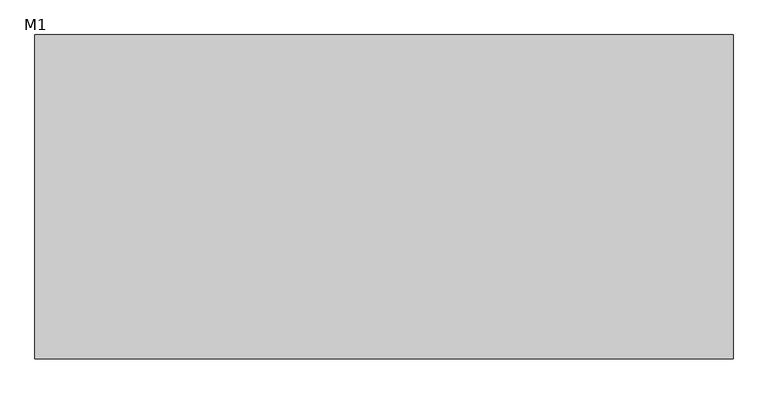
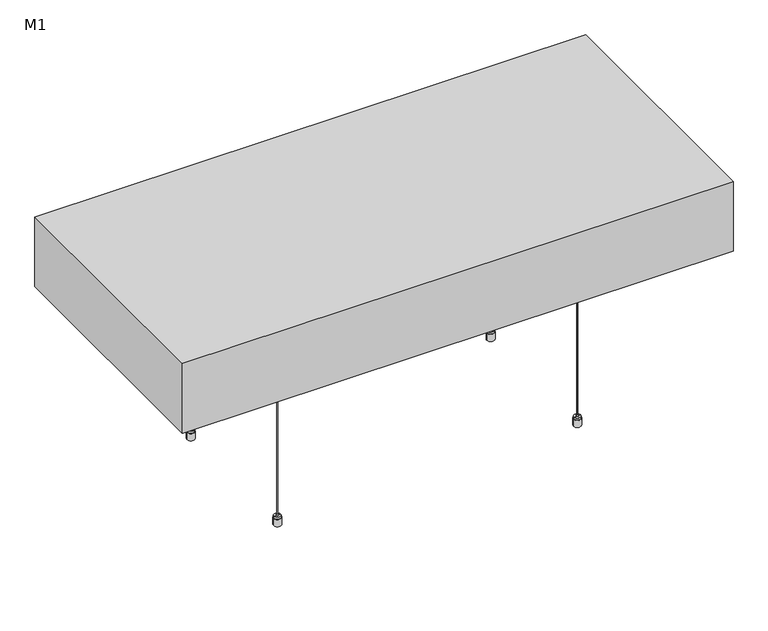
"""IFC4 building model written with IfcOpenShell, lengths in millimetres: proxy geometry, OWA Corpus : M1."""

from ifc_helpers import new_model, si_unit, point, frame, frame_2d, origin, place, context, project, spatial, polyline, circle_curve, trimmed, segment, composite_curve, outline, extrude, faceted_brep, source, transform, mapped, element, save
from ifc_brep_helpers import plane_surface, cylinder_surface, revolved_surface, advanced_brep


def m1_293964e8(model_context):
    return source(origin(), model_context, "Body", "SolidModel", [
        advanced_brep(
        [(-128.5, -152.5, 0.0), (-120.7593825, -152.5, 0.0), (-136.2406175, -152.5, 0.0), (-120.7593825, -152.5, 15.0), (-136.2406175, -152.5, 15.0), (-121.6843825, -152.5, 15.0), (-135.3156175, -152.5, 15.0), (-121.6843825, -152.5, 19.0), (-135.3156175, -152.5, 19.0), (-126.4343825, -152.5, 19.0), (-130.5656175, -152.5, 19.0), (-126.4343825, -152.5, 22.546183), (-130.5656175, -152.5, 22.546183), (-128.5, -152.5, 22.546183)],
        [
            (0, 1),
            (1, 2, circle_curve(frame((-128.5, -152.5, 0.0), z_axis=(0.0, 0.0, -1.0), x_axis=(-1.0, 0.0, 0.0)), 7.7406175)),
            (2, 0),
            (2, 1, circle_curve(frame((-128.5, -152.5, 0.0), z_axis=(0.0, 0.0, -1.0), x_axis=(-1.0, 0.0, 0.0)), 7.7406175)),
            (1, 3),
            (3, 4, circle_curve(frame((-128.5, -152.5, 15.0), z_axis=(0.0, 0.0, -1.0), x_axis=(-1.0, 0.0, 0.0)), 7.7406175)),
            (4, 2),
            (4, 3, circle_curve(frame((-128.5, -152.5, 15.0), z_axis=(0.0, 0.0, -1.0), x_axis=(-1.0, 0.0, 0.0)), 7.7406175)),
            (3, 5),
            (5, 6, circle_curve(frame((-128.5, -152.5, 15.0), z_axis=(0.0, 0.0, -1.0), x_axis=(-1.0, 0.0, 0.0)), 6.8156175)),
            (6, 4),
            (6, 5, circle_curve(frame((-128.5, -152.5, 15.0), z_axis=(0.0, 0.0, -1.0), x_axis=(-1.0, 0.0, 0.0)), 6.8156175)),
            (5, 7),
            (7, 8, circle_curve(frame((-128.5, -152.5, 19.0), z_axis=(0.0, 0.0, -1.0), x_axis=(-1.0, 0.0, 0.0)), 6.8156175)),
            (8, 6),
            (8, 7, circle_curve(frame((-128.5, -152.5, 19.0), z_axis=(0.0, 0.0, -1.0), x_axis=(-1.0, 0.0, 0.0)), 6.8156175)),
            (7, 9),
            (9, 10, circle_curve(frame((-128.5, -152.5, 19.0), z_axis=(0.0, 0.0, -1.0), x_axis=(-1.0, 0.0, 0.0)), 2.0656175)),
            (10, 8),
            (10, 9, circle_curve(frame((-128.5, -152.5, 19.0), z_axis=(0.0, 0.0, -1.0), x_axis=(-1.0, 0.0, 0.0)), 2.0656175)),
            (9, 11),
            (11, 12, circle_curve(frame((-128.5, -152.5, 22.546183), z_axis=(0.0, 0.0, -1.0), x_axis=(-1.0, 0.0, 0.0)), 2.0656175)),
            (12, 10),
            (12, 11, circle_curve(frame((-128.5, -152.5, 22.546183), z_axis=(0.0, 0.0, -1.0), x_axis=(-1.0, 0.0, 0.0)), 2.0656175)),
            (11, 13),
            (13, 12),
        ],
        [
            plane_surface(frame((-128.5, -152.5, 0.0), z_axis=(0.0, 0.0, -1.0), x_axis=(-1.0, 0.0, 0.0))),
            cylinder_surface(frame((-128.5, -152.5, -10.0), z_axis=(0.0, 0.0, -1.0), x_axis=(-1.0, 0.0, 0.0)), 7.7406175),
            plane_surface(frame((-128.5, -152.5, 15.0), z_axis=(0.0, 0.0, 1.0), x_axis=(-1.0, 0.0, 0.0))),
            cylinder_surface(frame((-128.5, -152.5, -10.0), z_axis=(0.0, 0.0, -1.0), x_axis=(-1.0, 0.0, 0.0)), 6.8156175),
            plane_surface(frame((-128.5, -152.5, 19.0), z_axis=(0.0, 0.0, 1.0), x_axis=(-1.0, 0.0, 0.0))),
            cylinder_surface(frame((-128.5, -152.5, -10.0), z_axis=(0.0, 0.0, -1.0), x_axis=(-1.0, 0.0, 0.0)), 2.0656175),
            plane_surface(frame((-128.5, -152.5, 22.546183), z_axis=(0.0, 0.0, 1.0), x_axis=(-1.0, 0.0, 0.0))),
        ],
        [
            (0, [[1, 2, 3]]),
            (0, [[-3, 4, -1]]),
            (1, [[5, 6, 7, -2]]),
            (1, [[-7, 8, -5, -4]]),
            (2, [[9, 10, 11, -6]]),
            (2, [[-11, 12, -9, -8]]),
            (3, [[13, 14, 15, -10]]),
            (3, [[-15, 16, -13, -12]]),
            (4, [[17, 18, 19, -14]]),
            (4, [[-19, 20, -17, -16]]),
            (5, [[21, 22, 23, -18]]),
            (5, [[-23, 24, -21, -20]]),
            (6, [[25, 26, -22]]),
            (6, [[-26, -25, -24]]),
        ],
    ),
        advanced_brep(
        [(-126.2615389, -152.5, 428.8211737), (-126.1339453, -152.5, 432.8711737), (-130.8660547, -152.5, 432.8711737), (-130.7384611, -152.5, 428.8211737), (-123.6339453, -152.5, 432.8711737), (-133.3660547, -152.5, 432.8711737), (-123.6339453, -152.5, 458.1211737), (-133.3660547, -152.5, 458.1211737), (-112.6339453, -152.5, 458.1211737), (-144.3660547, -152.5, 458.1211737), (-112.6339453, -152.5, 460.0), (-144.3660547, -152.5, 460.0), (-128.5, -152.5, 460.0), (-128.5, -152.5, 428.8211737)],
        [
            (0, 1),
            (1, 2, circle_curve(frame((-128.5, -152.5, 432.8711737), z_axis=(0.0, 0.0, -1.0), x_axis=(-1.0, 0.0, 0.0)), 2.3660547)),
            (2, 3),
            (3, 0, circle_curve(frame((-128.5, -152.5, 428.8211737), z_axis=(0.0, 0.0, 1.0), x_axis=(-1.0, 0.0, 0.0)), 2.2384611)),
            (2, 1, circle_curve(frame((-128.5, -152.5, 432.8711737), z_axis=(0.0, 0.0, -1.0), x_axis=(-1.0, 0.0, 0.0)), 2.3660547)),
            (0, 3, circle_curve(frame((-128.5, -152.5, 428.8211737), z_axis=(0.0, 0.0, 1.0), x_axis=(-1.0, 0.0, 0.0)), 2.2384611)),
            (1, 4),
            (4, 5, circle_curve(frame((-128.5, -152.5, 432.8711737), z_axis=(0.0, 0.0, -1.0), x_axis=(-1.0, 0.0, 0.0)), 4.8660547)),
            (5, 2),
            (5, 4, circle_curve(frame((-128.5, -152.5, 432.8711737), z_axis=(0.0, 0.0, -1.0), x_axis=(-1.0, 0.0, 0.0)), 4.8660547)),
            (4, 6),
            (6, 7, circle_curve(frame((-128.5, -152.5, 458.1211737), z_axis=(0.0, 0.0, -1.0), x_axis=(-1.0, 0.0, 0.0)), 4.8660547)),
            (7, 5),
            (7, 6, circle_curve(frame((-128.5, -152.5, 458.1211737), z_axis=(0.0, 0.0, -1.0), x_axis=(-1.0, 0.0, 0.0)), 4.8660547)),
            (6, 8),
            (8, 9, circle_curve(frame((-128.5, -152.5, 458.1211737), z_axis=(0.0, 0.0, -1.0), x_axis=(-1.0, 0.0, 0.0)), 15.8660547)),
            (9, 7),
            (9, 8, circle_curve(frame((-128.5, -152.5, 458.1211737), z_axis=(0.0, 0.0, -1.0), x_axis=(-1.0, 0.0, 0.0)), 15.8660547)),
            (8, 10),
            (10, 11, circle_curve(frame((-128.5, -152.5, 460.0), z_axis=(0.0, 0.0, -1.0), x_axis=(-1.0, 0.0, 0.0)), 15.8660547)),
            (11, 9),
            (11, 10, circle_curve(frame((-128.5, -152.5, 460.0), z_axis=(0.0, 0.0, -1.0), x_axis=(-1.0, 0.0, 0.0)), 15.8660547)),
            (10, 12),
            (12, 11),
            (13, 0),
            (3, 13),
        ],
        [
            revolved_surface(polyline([(-130.8660547, -152.5, 432.8711737), (-130.7384611, -152.5, 428.8211737)]), (-128.5, -152.5, 461.8401096), (0.0, 0.0, -1.0)),
            plane_surface(frame((-128.5, -152.5, 432.8711737), z_axis=(0.0, 0.0, -1.0), x_axis=(-1.0, 0.0, 0.0))),
            cylinder_surface(frame((-128.5, -152.5, 461.8401096), z_axis=(0.0, 0.0, -1.0), x_axis=(-1.0, 0.0, 0.0)), 4.8660547),
            plane_surface(frame((-128.5, -152.5, 458.1211737), z_axis=(0.0, 0.0, -1.0), x_axis=(-1.0, 0.0, 0.0))),
            cylinder_surface(frame((-128.5, -152.5, 461.8401096), z_axis=(0.0, 0.0, -1.0), x_axis=(-1.0, 0.0, 0.0)), 15.8660547),
            plane_surface(frame((-128.5, -152.5, 460.0), z_axis=(0.0, 0.0, 1.0), x_axis=(-1.0, 0.0, 0.0))),
            plane_surface(frame((-128.5, -152.5, 428.8211737), z_axis=(0.0, 0.0, -1.0), x_axis=(-1.0, 0.0, 0.0))),
        ],
        [
            (0, [[1, 2, 3, 4]]),
            (0, [[-3, 5, -1, 6]]),
            (1, [[7, 8, 9, -2]]),
            (1, [[-9, 10, -7, -5]]),
            (2, [[11, 12, 13, -8]]),
            (2, [[-13, 14, -11, -10]]),
            (3, [[15, 16, 17, -12]]),
            (3, [[-17, 18, -15, -14]]),
            (4, [[19, 20, 21, -16]]),
            (4, [[-21, 22, -19, -18]]),
            (5, [[23, 24, -20]]),
            (5, [[-24, -23, -22]]),
            (6, [[25, -4, 26]]),
            (6, [[-26, -6, -25]]),
        ],
    ),
        extrude(outline(composite_curve([segment(trimmed(circle_curve(frame_2d((-128.5, -152.5)), 1.0), [point((-129.5, -152.5))], [point((-127.5, -152.5))], False, "CARTESIAN"), True, "CONTINUOUS"), segment(trimmed(circle_curve(frame_2d((-128.5, -152.5)), 1.0), [point((-127.5, -152.5))], [point((-129.5, -152.5))], False, "CARTESIAN"), True, "CONTINUOUS")], self_intersect=False)), frame((0.0, 0.0, 22.546183), z_axis=(0.0, 0.0, 1.0), x_axis=(1.0, 0.0, 0.0)), (0.0, 0.0, 1.0), 406.2749908),
        advanced_brep(
        [(-128.5, 152.5, 0.0), (-136.2406175, 152.5, 0.0), (-120.7593825, 152.5, 0.0), (-136.2406175, 152.5, 15.0), (-120.7593825, 152.5, 15.0), (-135.3156175, 152.5, 15.0), (-121.6843825, 152.5, 15.0), (-135.3156175, 152.5, 19.0), (-121.6843825, 152.5, 19.0), (-130.5656175, 152.5, 19.0), (-126.4343825, 152.5, 19.0), (-130.5656175, 152.5, 22.546183), (-126.4343825, 152.5, 22.546183), (-128.5, 152.5, 22.546183)],
        [
            (0, 1),
            (1, 2, circle_curve(frame((-128.5, 152.5, 0.0), z_axis=(0.0, 0.0, -1.0), x_axis=(-1.0, 0.0, 0.0)), 7.7406175)),
            (2, 0),
            (2, 1, circle_curve(frame((-128.5, 152.5, 0.0), z_axis=(0.0, 0.0, -1.0), x_axis=(-1.0, 0.0, 0.0)), 7.7406175)),
            (1, 3),
            (3, 4, circle_curve(frame((-128.5, 152.5, 15.0), z_axis=(0.0, 0.0, -1.0), x_axis=(-1.0, 0.0, 0.0)), 7.7406175)),
            (4, 2),
            (4, 3, circle_curve(frame((-128.5, 152.5, 15.0), z_axis=(0.0, 0.0, -1.0), x_axis=(-1.0, 0.0, 0.0)), 7.7406175)),
            (3, 5),
            (5, 6, circle_curve(frame((-128.5, 152.5, 15.0), z_axis=(0.0, 0.0, -1.0), x_axis=(-1.0, 0.0, 0.0)), 6.8156175)),
            (6, 4),
            (6, 5, circle_curve(frame((-128.5, 152.5, 15.0), z_axis=(0.0, 0.0, -1.0), x_axis=(-1.0, 0.0, 0.0)), 6.8156175)),
            (5, 7),
            (7, 8, circle_curve(frame((-128.5, 152.5, 19.0), z_axis=(0.0, 0.0, -1.0), x_axis=(-1.0, 0.0, 0.0)), 6.8156175)),
            (8, 6),
            (8, 7, circle_curve(frame((-128.5, 152.5, 19.0), z_axis=(0.0, 0.0, -1.0), x_axis=(-1.0, 0.0, 0.0)), 6.8156175)),
            (7, 9),
            (9, 10, circle_curve(frame((-128.5, 152.5, 19.0), z_axis=(0.0, 0.0, -1.0), x_axis=(-1.0, 0.0, 0.0)), 2.0656175)),
            (10, 8),
            (10, 9, circle_curve(frame((-128.5, 152.5, 19.0), z_axis=(0.0, 0.0, -1.0), x_axis=(-1.0, 0.0, 0.0)), 2.0656175)),
            (9, 11),
            (11, 12, circle_curve(frame((-128.5, 152.5, 22.546183), z_axis=(0.0, 0.0, -1.0), x_axis=(-1.0, 0.0, 0.0)), 2.0656175)),
            (12, 10),
            (12, 11, circle_curve(frame((-128.5, 152.5, 22.546183), z_axis=(0.0, 0.0, -1.0), x_axis=(-1.0, 0.0, 0.0)), 2.0656175)),
            (11, 13),
            (13, 12),
        ],
        [
            plane_surface(frame((-128.5, 152.5, 0.0), z_axis=(0.0, 0.0, -1.0), x_axis=(-1.0, 0.0, 0.0))),
            cylinder_surface(frame((-128.5, 152.5, -10.0), z_axis=(0.0, 0.0, -1.0), x_axis=(-1.0, 0.0, 0.0)), 7.7406175),
            plane_surface(frame((-128.5, 152.5, 15.0), z_axis=(0.0, 0.0, 1.0), x_axis=(-1.0, 0.0, 0.0))),
            cylinder_surface(frame((-128.5, 152.5, -10.0), z_axis=(0.0, 0.0, -1.0), x_axis=(-1.0, 0.0, 0.0)), 6.8156175),
            plane_surface(frame((-128.5, 152.5, 19.0), z_axis=(0.0, 0.0, 1.0), x_axis=(-1.0, 0.0, 0.0))),
            cylinder_surface(frame((-128.5, 152.5, -10.0), z_axis=(0.0, 0.0, -1.0), x_axis=(-1.0, 0.0, 0.0)), 2.0656175),
            plane_surface(frame((-128.5, 152.5, 22.546183), z_axis=(0.0, 0.0, 1.0), x_axis=(-1.0, 0.0, 0.0))),
        ],
        [
            (0, [[1, 2, 3]]),
            (0, [[-3, 4, -1]]),
            (1, [[-2, 5, 6, 7]]),
            (1, [[-4, -7, 8, -5]]),
            (2, [[-6, 9, 10, 11]]),
            (2, [[-8, -11, 12, -9]]),
            (3, [[-10, 13, 14, 15]]),
            (3, [[-12, -15, 16, -13]]),
            (4, [[-14, 17, 18, 19]]),
            (4, [[-16, -19, 20, -17]]),
            (5, [[-18, 21, 22, 23]]),
            (5, [[-20, -23, 24, -21]]),
            (6, [[-22, 25, 26]]),
            (6, [[-24, -26, -25]]),
        ],
    ),
        advanced_brep(
        [(-126.2615389, 152.5, 428.8211737), (-130.7384611, 152.5, 428.8211737), (-130.8660547, 152.5, 432.8711737), (-126.1339453, 152.5, 432.8711737), (-133.3660547, 152.5, 432.8711737), (-123.6339453, 152.5, 432.8711737), (-133.3660547, 152.5, 458.1211737), (-123.6339453, 152.5, 458.1211737), (-144.3660547, 152.5, 458.1211737), (-112.6339453, 152.5, 458.1211737), (-144.3660547, 152.5, 460.0), (-112.6339453, 152.5, 460.0), (-128.5, 152.5, 460.0), (-128.5, 152.5, 428.8211737)],
        [
            (0, 1, circle_curve(frame((-128.5, 152.5, 428.8211737), z_axis=(0.0, 0.0, 1.0), x_axis=(-1.0, 0.0, 0.0)), 2.2384611)),
            (1, 2),
            (2, 3, circle_curve(frame((-128.5, 152.5, 432.8711737), z_axis=(0.0, 0.0, -1.0), x_axis=(-1.0, 0.0, 0.0)), 2.3660547)),
            (3, 0),
            (1, 0, circle_curve(frame((-128.5, 152.5, 428.8211737), z_axis=(0.0, 0.0, 1.0), x_axis=(-1.0, 0.0, 0.0)), 2.2384611)),
            (3, 2, circle_curve(frame((-128.5, 152.5, 432.8711737), z_axis=(0.0, 0.0, -1.0), x_axis=(-1.0, 0.0, 0.0)), 2.3660547)),
            (2, 4),
            (4, 5, circle_curve(frame((-128.5, 152.5, 432.8711737), z_axis=(0.0, 0.0, -1.0), x_axis=(-1.0, 0.0, 0.0)), 4.8660547)),
            (5, 3),
            (5, 4, circle_curve(frame((-128.5, 152.5, 432.8711737), z_axis=(0.0, 0.0, -1.0), x_axis=(-1.0, 0.0, 0.0)), 4.8660547)),
            (4, 6),
            (6, 7, circle_curve(frame((-128.5, 152.5, 458.1211737), z_axis=(0.0, 0.0, -1.0), x_axis=(-1.0, 0.0, 0.0)), 4.8660547)),
            (7, 5),
            (7, 6, circle_curve(frame((-128.5, 152.5, 458.1211737), z_axis=(0.0, 0.0, -1.0), x_axis=(-1.0, 0.0, 0.0)), 4.8660547)),
            (6, 8),
            (8, 9, circle_curve(frame((-128.5, 152.5, 458.1211737), z_axis=(0.0, 0.0, -1.0), x_axis=(-1.0, 0.0, 0.0)), 15.8660547)),
            (9, 7),
            (9, 8, circle_curve(frame((-128.5, 152.5, 458.1211737), z_axis=(0.0, 0.0, -1.0), x_axis=(-1.0, 0.0, 0.0)), 15.8660547)),
            (8, 10),
            (10, 11, circle_curve(frame((-128.5, 152.5, 460.0), z_axis=(0.0, 0.0, -1.0), x_axis=(-1.0, 0.0, 0.0)), 15.8660547)),
            (11, 9),
            (11, 10, circle_curve(frame((-128.5, 152.5, 460.0), z_axis=(0.0, 0.0, -1.0), x_axis=(-1.0, 0.0, 0.0)), 15.8660547)),
            (10, 12),
            (12, 11),
            (13, 1),
            (0, 13),
        ],
        [
            revolved_surface(polyline([(-130.8660547, 152.5, 432.8711737), (-130.7384611, 152.5, 428.8211737)]), (-128.5, 152.5, 461.8401096), (0.0, 0.0, -1.0)),
            plane_surface(frame((-128.5, 152.5, 432.8711737), z_axis=(0.0, 0.0, -1.0), x_axis=(-1.0, 0.0, 0.0))),
            cylinder_surface(frame((-128.5, 152.5, 461.8401096), z_axis=(0.0, 0.0, -1.0), x_axis=(-1.0, 0.0, 0.0)), 4.8660547),
            plane_surface(frame((-128.5, 152.5, 458.1211737), z_axis=(0.0, 0.0, -1.0), x_axis=(-1.0, 0.0, 0.0))),
            cylinder_surface(frame((-128.5, 152.5, 461.8401096), z_axis=(0.0, 0.0, -1.0), x_axis=(-1.0, 0.0, 0.0)), 15.8660547),
            plane_surface(frame((-128.5, 152.5, 460.0), z_axis=(0.0, 0.0, 1.0), x_axis=(-1.0, 0.0, 0.0))),
            plane_surface(frame((-128.5, 152.5, 428.8211737), z_axis=(0.0, 0.0, -1.0), x_axis=(-1.0, 0.0, 0.0))),
        ],
        [
            (0, [[1, 2, 3, 4]]),
            (0, [[5, -4, 6, -2]]),
            (1, [[-3, 7, 8, 9]]),
            (1, [[-6, -9, 10, -7]]),
            (2, [[-8, 11, 12, 13]]),
            (2, [[-10, -13, 14, -11]]),
            (3, [[-12, 15, 16, 17]]),
            (3, [[-14, -17, 18, -15]]),
            (4, [[-16, 19, 20, 21]]),
            (4, [[-18, -21, 22, -19]]),
            (5, [[-20, 23, 24]]),
            (5, [[-22, -24, -23]]),
            (6, [[25, -1, 26]]),
            (6, [[-26, -5, -25]]),
        ],
    ),
        extrude(outline(composite_curve([segment(trimmed(circle_curve(frame_2d((-128.5, 152.5)), 1.0), [point((-129.5, 152.5))], [point((-127.5, 152.5))], False, "CARTESIAN"), True, "CONTINUOUS"), segment(trimmed(circle_curve(frame_2d((-128.5, 152.5)), 1.0), [point((-127.5, 152.5))], [point((-129.5, 152.5))], False, "CARTESIAN"), True, "CONTINUOUS")], self_intersect=False)), frame((0.0, 0.0, 22.546183), z_axis=(0.0, 0.0, 1.0), x_axis=(1.0, 0.0, 0.0)), (0.0, 0.0, 1.0), 406.2749908),
        advanced_brep(
        [(-738.5, -152.5, 0.0), (-730.7593825, -152.5, 0.0), (-746.2406175, -152.5, 0.0), (-730.7593825, -152.5, 15.0), (-746.2406175, -152.5, 15.0), (-731.6843825, -152.5, 15.0), (-745.3156175, -152.5, 15.0), (-731.6843825, -152.5, 19.0), (-745.3156175, -152.5, 19.0), (-736.4343825, -152.5, 19.0), (-740.5656175, -152.5, 19.0), (-736.4343825, -152.5, 22.546183), (-740.5656175, -152.5, 22.546183), (-738.5, -152.5, 22.546183)],
        [
            (0, 1),
            (1, 2, circle_curve(frame((-738.5, -152.5, 0.0), z_axis=(0.0, 0.0, -1.0), x_axis=(-1.0, 0.0, 0.0)), 7.7406175)),
            (2, 0),
            (2, 1, circle_curve(frame((-738.5, -152.5, 0.0), z_axis=(0.0, 0.0, -1.0), x_axis=(-1.0, 0.0, 0.0)), 7.7406175)),
            (1, 3),
            (3, 4, circle_curve(frame((-738.5, -152.5, 15.0), z_axis=(0.0, 0.0, -1.0), x_axis=(-1.0, 0.0, 0.0)), 7.7406175)),
            (4, 2),
            (4, 3, circle_curve(frame((-738.5, -152.5, 15.0), z_axis=(0.0, 0.0, -1.0), x_axis=(-1.0, 0.0, 0.0)), 7.7406175)),
            (3, 5),
            (5, 6, circle_curve(frame((-738.5, -152.5, 15.0), z_axis=(0.0, 0.0, -1.0), x_axis=(-1.0, 0.0, 0.0)), 6.8156175)),
            (6, 4),
            (6, 5, circle_curve(frame((-738.5, -152.5, 15.0), z_axis=(0.0, 0.0, -1.0), x_axis=(-1.0, 0.0, 0.0)), 6.8156175)),
            (5, 7),
            (7, 8, circle_curve(frame((-738.5, -152.5, 19.0), z_axis=(0.0, 0.0, -1.0), x_axis=(-1.0, 0.0, 0.0)), 6.8156175)),
            (8, 6),
            (8, 7, circle_curve(frame((-738.5, -152.5, 19.0), z_axis=(0.0, 0.0, -1.0), x_axis=(-1.0, 0.0, 0.0)), 6.8156175)),
            (7, 9),
            (9, 10, circle_curve(frame((-738.5, -152.5, 19.0), z_axis=(0.0, 0.0, -1.0), x_axis=(-1.0, 0.0, 0.0)), 2.0656175)),
            (10, 8),
            (10, 9, circle_curve(frame((-738.5, -152.5, 19.0), z_axis=(0.0, 0.0, -1.0), x_axis=(-1.0, 0.0, 0.0)), 2.0656175)),
            (9, 11),
            (11, 12, circle_curve(frame((-738.5, -152.5, 22.546183), z_axis=(0.0, 0.0, -1.0), x_axis=(-1.0, 0.0, 0.0)), 2.0656175)),
            (12, 10),
            (12, 11, circle_curve(frame((-738.5, -152.5, 22.546183), z_axis=(0.0, 0.0, -1.0), x_axis=(-1.0, 0.0, 0.0)), 2.0656175)),
            (11, 13),
            (13, 12),
        ],
        [
            plane_surface(frame((-738.5, -152.5, 0.0), z_axis=(0.0, 0.0, -1.0), x_axis=(-1.0, 0.0, 0.0))),
            cylinder_surface(frame((-738.5, -152.5, -10.0), z_axis=(0.0, 0.0, -1.0), x_axis=(-1.0, 0.0, 0.0)), 7.7406175),
            plane_surface(frame((-738.5, -152.5, 15.0), z_axis=(0.0, 0.0, 1.0), x_axis=(-1.0, 0.0, 0.0))),
            cylinder_surface(frame((-738.5, -152.5, -10.0), z_axis=(0.0, 0.0, -1.0), x_axis=(-1.0, 0.0, 0.0)), 6.8156175),
            plane_surface(frame((-738.5, -152.5, 19.0), z_axis=(0.0, 0.0, 1.0), x_axis=(-1.0, 0.0, 0.0))),
            cylinder_surface(frame((-738.5, -152.5, -10.0), z_axis=(0.0, 0.0, -1.0), x_axis=(-1.0, 0.0, 0.0)), 2.0656175),
            plane_surface(frame((-738.5, -152.5, 22.546183), z_axis=(0.0, 0.0, 1.0), x_axis=(-1.0, 0.0, 0.0))),
        ],
        [
            (0, [[1, 2, 3]]),
            (0, [[-3, 4, -1]]),
            (1, [[5, 6, 7, -2]]),
            (1, [[-7, 8, -5, -4]]),
            (2, [[9, 10, 11, -6]]),
            (2, [[-11, 12, -9, -8]]),
            (3, [[13, 14, 15, -10]]),
            (3, [[-15, 16, -13, -12]]),
            (4, [[17, 18, 19, -14]]),
            (4, [[-19, 20, -17, -16]]),
            (5, [[21, 22, 23, -18]]),
            (5, [[-23, 24, -21, -20]]),
            (6, [[25, 26, -22]]),
            (6, [[-26, -25, -24]]),
        ],
    ),
        advanced_brep(
        [(-736.2615389, -152.5, 428.8211737), (-736.1339453, -152.5, 432.8711737), (-740.8660547, -152.5, 432.8711737), (-740.7384611, -152.5, 428.8211737), (-733.6339453, -152.5, 432.8711737), (-743.3660547, -152.5, 432.8711737), (-733.6339453, -152.5, 458.1211737), (-743.3660547, -152.5, 458.1211737), (-722.6339453, -152.5, 458.1211737), (-754.3660547, -152.5, 458.1211737), (-722.6339453, -152.5, 460.0), (-754.3660547, -152.5, 460.0), (-738.5, -152.5, 460.0), (-738.5, -152.5, 428.8211737)],
        [
            (0, 1),
            (1, 2, circle_curve(frame((-738.5, -152.5, 432.8711737), z_axis=(0.0, 0.0, -1.0), x_axis=(-1.0, 0.0, 0.0)), 2.3660547)),
            (2, 3),
            (3, 0, circle_curve(frame((-738.5, -152.5, 428.8211737), z_axis=(0.0, 0.0, 1.0), x_axis=(-1.0, 0.0, 0.0)), 2.2384611)),
            (2, 1, circle_curve(frame((-738.5, -152.5, 432.8711737), z_axis=(0.0, 0.0, -1.0), x_axis=(-1.0, 0.0, 0.0)), 2.3660547)),
            (0, 3, circle_curve(frame((-738.5, -152.5, 428.8211737), z_axis=(0.0, 0.0, 1.0), x_axis=(-1.0, 0.0, 0.0)), 2.2384611)),
            (1, 4),
            (4, 5, circle_curve(frame((-738.5, -152.5, 432.8711737), z_axis=(0.0, 0.0, -1.0), x_axis=(-1.0, 0.0, 0.0)), 4.8660547)),
            (5, 2),
            (5, 4, circle_curve(frame((-738.5, -152.5, 432.8711737), z_axis=(0.0, 0.0, -1.0), x_axis=(-1.0, 0.0, 0.0)), 4.8660547)),
            (4, 6),
            (6, 7, circle_curve(frame((-738.5, -152.5, 458.1211737), z_axis=(0.0, 0.0, -1.0), x_axis=(-1.0, 0.0, 0.0)), 4.8660547)),
            (7, 5),
            (7, 6, circle_curve(frame((-738.5, -152.5, 458.1211737), z_axis=(0.0, 0.0, -1.0), x_axis=(-1.0, 0.0, 0.0)), 4.8660547)),
            (6, 8),
            (8, 9, circle_curve(frame((-738.5, -152.5, 458.1211737), z_axis=(0.0, 0.0, -1.0), x_axis=(-1.0, 0.0, 0.0)), 15.8660547)),
            (9, 7),
            (9, 8, circle_curve(frame((-738.5, -152.5, 458.1211737), z_axis=(0.0, 0.0, -1.0), x_axis=(-1.0, 0.0, 0.0)), 15.8660547)),
            (8, 10),
            (10, 11, circle_curve(frame((-738.5, -152.5, 460.0), z_axis=(0.0, 0.0, -1.0), x_axis=(-1.0, 0.0, 0.0)), 15.8660547)),
            (11, 9),
            (11, 10, circle_curve(frame((-738.5, -152.5, 460.0), z_axis=(0.0, 0.0, -1.0), x_axis=(-1.0, 0.0, 0.0)), 15.8660547)),
            (10, 12),
            (12, 11),
            (13, 0),
            (3, 13),
        ],
        [
            revolved_surface(polyline([(-740.8660547, -152.5, 432.8711737), (-740.7384611, -152.5, 428.8211737)]), (-738.5, -152.5, 461.8401096), (0.0, 0.0, -1.0)),
            plane_surface(frame((-738.5, -152.5, 432.8711737), z_axis=(0.0, 0.0, -1.0), x_axis=(-1.0, 0.0, 0.0))),
            cylinder_surface(frame((-738.5, -152.5, 461.8401096), z_axis=(0.0, 0.0, -1.0), x_axis=(-1.0, 0.0, 0.0)), 4.8660547),
            plane_surface(frame((-738.5, -152.5, 458.1211737), z_axis=(0.0, 0.0, -1.0), x_axis=(-1.0, 0.0, 0.0))),
            cylinder_surface(frame((-738.5, -152.5, 461.8401096), z_axis=(0.0, 0.0, -1.0), x_axis=(-1.0, 0.0, 0.0)), 15.8660547),
            plane_surface(frame((-738.5, -152.5, 460.0), z_axis=(0.0, 0.0, 1.0), x_axis=(-1.0, 0.0, 0.0))),
            plane_surface(frame((-738.5, -152.5, 428.8211737), z_axis=(0.0, 0.0, -1.0), x_axis=(-1.0, 0.0, 0.0))),
        ],
        [
            (0, [[1, 2, 3, 4]]),
            (0, [[-3, 5, -1, 6]]),
            (1, [[7, 8, 9, -2]]),
            (1, [[-9, 10, -7, -5]]),
            (2, [[11, 12, 13, -8]]),
            (2, [[-13, 14, -11, -10]]),
            (3, [[15, 16, 17, -12]]),
            (3, [[-17, 18, -15, -14]]),
            (4, [[19, 20, 21, -16]]),
            (4, [[-21, 22, -19, -18]]),
            (5, [[23, 24, -20]]),
            (5, [[-24, -23, -22]]),
            (6, [[25, -4, 26]]),
            (6, [[-26, -6, -25]]),
        ],
    ),
        extrude(outline(composite_curve([segment(trimmed(circle_curve(frame_2d((-738.5, -152.5)), 1.0), [point((-739.5, -152.5))], [point((-737.5, -152.5))], False, "CARTESIAN"), True, "CONTINUOUS"), segment(trimmed(circle_curve(frame_2d((-738.5, -152.5)), 1.0), [point((-737.5, -152.5))], [point((-739.5, -152.5))], False, "CARTESIAN"), True, "CONTINUOUS")], self_intersect=False)), frame((0.0, 0.0, 22.546183), z_axis=(0.0, 0.0, 1.0), x_axis=(1.0, 0.0, 0.0)), (0.0, 0.0, 1.0), 406.2749908),
        advanced_brep(
        [(-738.5, 152.5, 0.0), (-746.2406175, 152.5, 0.0), (-730.7593825, 152.5, 0.0), (-746.2406175, 152.5, 15.0), (-730.7593825, 152.5, 15.0), (-745.3156175, 152.5, 15.0), (-731.6843825, 152.5, 15.0), (-745.3156175, 152.5, 19.0), (-731.6843825, 152.5, 19.0), (-740.5656175, 152.5, 19.0), (-736.4343825, 152.5, 19.0), (-740.5656175, 152.5, 22.546183), (-736.4343825, 152.5, 22.546183), (-738.5, 152.5, 22.546183)],
        [
            (0, 1),
            (1, 2, circle_curve(frame((-738.5, 152.5, 0.0), z_axis=(0.0, 0.0, -1.0), x_axis=(-1.0, 0.0, 0.0)), 7.7406175)),
            (2, 0),
            (2, 1, circle_curve(frame((-738.5, 152.5, 0.0), z_axis=(0.0, 0.0, -1.0), x_axis=(-1.0, 0.0, 0.0)), 7.7406175)),
            (1, 3),
            (3, 4, circle_curve(frame((-738.5, 152.5, 15.0), z_axis=(0.0, 0.0, -1.0), x_axis=(-1.0, 0.0, 0.0)), 7.7406175)),
            (4, 2),
            (4, 3, circle_curve(frame((-738.5, 152.5, 15.0), z_axis=(0.0, 0.0, -1.0), x_axis=(-1.0, 0.0, 0.0)), 7.7406175)),
            (3, 5),
            (5, 6, circle_curve(frame((-738.5, 152.5, 15.0), z_axis=(0.0, 0.0, -1.0), x_axis=(-1.0, 0.0, 0.0)), 6.8156175)),
            (6, 4),
            (6, 5, circle_curve(frame((-738.5, 152.5, 15.0), z_axis=(0.0, 0.0, -1.0), x_axis=(-1.0, 0.0, 0.0)), 6.8156175)),
            (5, 7),
            (7, 8, circle_curve(frame((-738.5, 152.5, 19.0), z_axis=(0.0, 0.0, -1.0), x_axis=(-1.0, 0.0, 0.0)), 6.8156175)),
            (8, 6),
            (8, 7, circle_curve(frame((-738.5, 152.5, 19.0), z_axis=(0.0, 0.0, -1.0), x_axis=(-1.0, 0.0, 0.0)), 6.8156175)),
            (7, 9),
            (9, 10, circle_curve(frame((-738.5, 152.5, 19.0), z_axis=(0.0, 0.0, -1.0), x_axis=(-1.0, 0.0, 0.0)), 2.0656175)),
            (10, 8),
            (10, 9, circle_curve(frame((-738.5, 152.5, 19.0), z_axis=(0.0, 0.0, -1.0), x_axis=(-1.0, 0.0, 0.0)), 2.0656175)),
            (9, 11),
            (11, 12, circle_curve(frame((-738.5, 152.5, 22.546183), z_axis=(0.0, 0.0, -1.0), x_axis=(-1.0, 0.0, 0.0)), 2.0656175)),
            (12, 10),
            (12, 11, circle_curve(frame((-738.5, 152.5, 22.546183), z_axis=(0.0, 0.0, -1.0), x_axis=(-1.0, 0.0, 0.0)), 2.0656175)),
            (11, 13),
            (13, 12),
        ],
        [
            plane_surface(frame((-738.5, 152.5, 0.0), z_axis=(0.0, 0.0, -1.0), x_axis=(-1.0, 0.0, 0.0))),
            cylinder_surface(frame((-738.5, 152.5, -10.0), z_axis=(0.0, 0.0, -1.0), x_axis=(-1.0, 0.0, 0.0)), 7.7406175),
            plane_surface(frame((-738.5, 152.5, 15.0), z_axis=(0.0, 0.0, 1.0), x_axis=(-1.0, 0.0, 0.0))),
            cylinder_surface(frame((-738.5, 152.5, -10.0), z_axis=(0.0, 0.0, -1.0), x_axis=(-1.0, 0.0, 0.0)), 6.8156175),
            plane_surface(frame((-738.5, 152.5, 19.0), z_axis=(0.0, 0.0, 1.0), x_axis=(-1.0, 0.0, 0.0))),
            cylinder_surface(frame((-738.5, 152.5, -10.0), z_axis=(0.0, 0.0, -1.0), x_axis=(-1.0, 0.0, 0.0)), 2.0656175),
            plane_surface(frame((-738.5, 152.5, 22.546183), z_axis=(0.0, 0.0, 1.0), x_axis=(-1.0, 0.0, 0.0))),
        ],
        [
            (0, [[1, 2, 3]]),
            (0, [[-3, 4, -1]]),
            (1, [[-2, 5, 6, 7]]),
            (1, [[-4, -7, 8, -5]]),
            (2, [[-6, 9, 10, 11]]),
            (2, [[-8, -11, 12, -9]]),
            (3, [[-10, 13, 14, 15]]),
            (3, [[-12, -15, 16, -13]]),
            (4, [[-14, 17, 18, 19]]),
            (4, [[-16, -19, 20, -17]]),
            (5, [[-18, 21, 22, 23]]),
            (5, [[-20, -23, 24, -21]]),
            (6, [[-22, 25, 26]]),
            (6, [[-24, -26, -25]]),
        ],
    ),
        advanced_brep(
        [(-736.2615389, 152.5, 428.8211737), (-740.7384611, 152.5, 428.8211737), (-740.8660547, 152.5, 432.8711737), (-736.1339453, 152.5, 432.8711737), (-743.3660547, 152.5, 432.8711737), (-733.6339453, 152.5, 432.8711737), (-743.3660547, 152.5, 458.1211737), (-733.6339453, 152.5, 458.1211737), (-754.3660547, 152.5, 458.1211737), (-722.6339453, 152.5, 458.1211737), (-754.3660547, 152.5, 460.0), (-722.6339453, 152.5, 460.0), (-738.5, 152.5, 460.0), (-738.5, 152.5, 428.8211737)],
        [
            (0, 1, circle_curve(frame((-738.5, 152.5, 428.8211737), z_axis=(0.0, 0.0, 1.0), x_axis=(-1.0, 0.0, 0.0)), 2.2384611)),
            (1, 2),
            (2, 3, circle_curve(frame((-738.5, 152.5, 432.8711737), z_axis=(0.0, 0.0, -1.0), x_axis=(-1.0, 0.0, 0.0)), 2.3660547)),
            (3, 0),
            (1, 0, circle_curve(frame((-738.5, 152.5, 428.8211737), z_axis=(0.0, 0.0, 1.0), x_axis=(-1.0, 0.0, 0.0)), 2.2384611)),
            (3, 2, circle_curve(frame((-738.5, 152.5, 432.8711737), z_axis=(0.0, 0.0, -1.0), x_axis=(-1.0, 0.0, 0.0)), 2.3660547)),
            (2, 4),
            (4, 5, circle_curve(frame((-738.5, 152.5, 432.8711737), z_axis=(0.0, 0.0, -1.0), x_axis=(-1.0, 0.0, 0.0)), 4.8660547)),
            (5, 3),
            (5, 4, circle_curve(frame((-738.5, 152.5, 432.8711737), z_axis=(0.0, 0.0, -1.0), x_axis=(-1.0, 0.0, 0.0)), 4.8660547)),
            (4, 6),
            (6, 7, circle_curve(frame((-738.5, 152.5, 458.1211737), z_axis=(0.0, 0.0, -1.0), x_axis=(-1.0, 0.0, 0.0)), 4.8660547)),
            (7, 5),
            (7, 6, circle_curve(frame((-738.5, 152.5, 458.1211737), z_axis=(0.0, 0.0, -1.0), x_axis=(-1.0, 0.0, 0.0)), 4.8660547)),
            (6, 8),
            (8, 9, circle_curve(frame((-738.5, 152.5, 458.1211737), z_axis=(0.0, 0.0, -1.0), x_axis=(-1.0, 0.0, 0.0)), 15.8660547)),
            (9, 7),
            (9, 8, circle_curve(frame((-738.5, 152.5, 458.1211737), z_axis=(0.0, 0.0, -1.0), x_axis=(-1.0, 0.0, 0.0)), 15.8660547)),
            (8, 10),
            (10, 11, circle_curve(frame((-738.5, 152.5, 460.0), z_axis=(0.0, 0.0, -1.0), x_axis=(-1.0, 0.0, 0.0)), 15.8660547)),
            (11, 9),
            (11, 10, circle_curve(frame((-738.5, 152.5, 460.0), z_axis=(0.0, 0.0, -1.0), x_axis=(-1.0, 0.0, 0.0)), 15.8660547)),
            (10, 12),
            (12, 11),
            (13, 1),
            (0, 13),
        ],
        [
            revolved_surface(polyline([(-740.8660547, 152.5, 432.8711737), (-740.7384611, 152.5, 428.8211737)]), (-738.5, 152.5, 461.8401096), (0.0, 0.0, -1.0)),
            plane_surface(frame((-738.5, 152.5, 432.8711737), z_axis=(0.0, 0.0, -1.0), x_axis=(-1.0, 0.0, 0.0))),
            cylinder_surface(frame((-738.5, 152.5, 461.8401096), z_axis=(0.0, 0.0, -1.0), x_axis=(-1.0, 0.0, 0.0)), 4.8660547),
            plane_surface(frame((-738.5, 152.5, 458.1211737), z_axis=(0.0, 0.0, -1.0), x_axis=(-1.0, 0.0, 0.0))),
            cylinder_surface(frame((-738.5, 152.5, 461.8401096), z_axis=(0.0, 0.0, -1.0), x_axis=(-1.0, 0.0, 0.0)), 15.8660547),
            plane_surface(frame((-738.5, 152.5, 460.0), z_axis=(0.0, 0.0, 1.0), x_axis=(-1.0, 0.0, 0.0))),
            plane_surface(frame((-738.5, 152.5, 428.8211737), z_axis=(0.0, 0.0, -1.0), x_axis=(-1.0, 0.0, 0.0))),
        ],
        [
            (0, [[1, 2, 3, 4]]),
            (0, [[5, -4, 6, -2]]),
            (1, [[-3, 7, 8, 9]]),
            (1, [[-6, -9, 10, -7]]),
            (2, [[-8, 11, 12, 13]]),
            (2, [[-10, -13, 14, -11]]),
            (3, [[-12, 15, 16, 17]]),
            (3, [[-14, -17, 18, -15]]),
            (4, [[-16, 19, 20, 21]]),
            (4, [[-18, -21, 22, -19]]),
            (5, [[-20, 23, 24]]),
            (5, [[-22, -24, -23]]),
            (6, [[25, -1, 26]]),
            (6, [[-26, -5, -25]]),
        ],
    ),
        extrude(outline(composite_curve([segment(trimmed(circle_curve(frame_2d((-738.5, 152.5)), 1.0), [point((-739.5, 152.5))], [point((-737.5, 152.5))], False, "CARTESIAN"), True, "CONTINUOUS"), segment(trimmed(circle_curve(frame_2d((-738.5, 152.5)), 1.0), [point((-737.5, 152.5))], [point((-739.5, 152.5))], False, "CARTESIAN"), True, "CONTINUOUS")], self_intersect=False)), frame((0.0, 0.0, 22.546183), z_axis=(0.0, 0.0, 1.0), x_axis=(1.0, 0.0, 0.0)), (0.0, 0.0, 1.0), 406.2749908),
        faceted_brep([(126.5, 260.0, 500.0), (-993.5, 260.0, 500.0), (-993.5, -260.0, 500.0), (126.5, -260.0, 500.0), (86.5, 220.0, 460.0), (86.5, -220.0, 460.0), (-953.5, -220.0, 460.0), (-953.5, 220.0, 460.0), (126.5, 260.0, 350.0), (-993.5, 260.0, 350.0), (-993.5, -260.0, 350.0), (126.5, -260.0, 350.0), (86.5, 220.0, 350.0), (-953.5, 220.0, 350.0), (-953.5, -220.0, 350.0), (86.5, -220.0, 350.0)], [[[0, 1, 2, 3]], [[4, 5, 6, 7]], [[1, 0, 8, 9]], [[2, 1, 9, 10]], [[3, 2, 10, 11]], [[8, 0, 3, 11]], [[8, 11, 10, 9], [12, 13, 14, 15]], [[12, 15, 5, 4]], [[15, 14, 6, 5]], [[14, 13, 7, 6]], [[13, 12, 4, 7]]]),
    ])


if __name__ == "__main__":
    model = new_model("IFC4")
    model_context = context("Model", 3, world=origin())
    ifc_project = project(units=[si_unit("LENGTHUNIT", "METRE", prefix="MILLI")], contexts=[model_context])
    site = spatial("IfcSite", under=ifc_project)
    building = spatial("IfcBuilding", under=site)
    placement = place(None, origin())
    m1_shape = m1_293964e8(model_context)
    element("IfcBuildingElementProxy", 1, Name="OWA Corpus : M1", ObjectType="OWA Corpus : M1", at=placement, inside=building, context=model_context, shape_type="MappedRepresentation", body=[
        mapped(m1_shape, transform((0.0, 0.0, 0.0), x_axis=(1.0, 0.0, 0.0), y_axis=(0.0, 1.0, 0.0), z_axis=(0.0, 0.0, 1.0))),
    ])
    save(model, "model.ifc")
